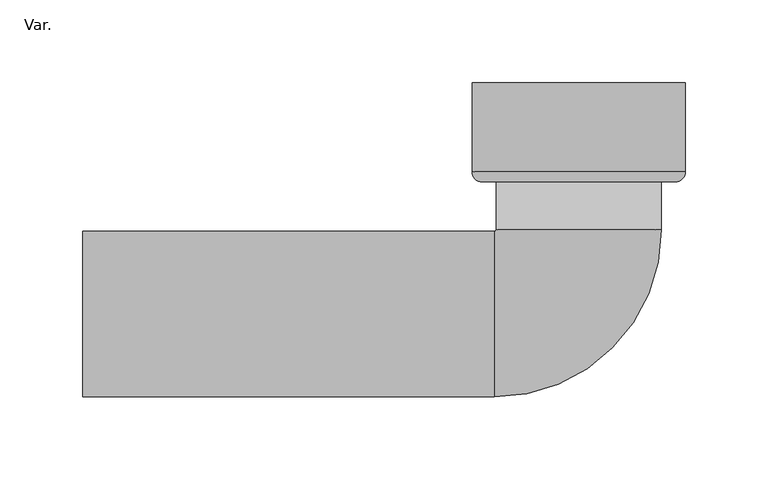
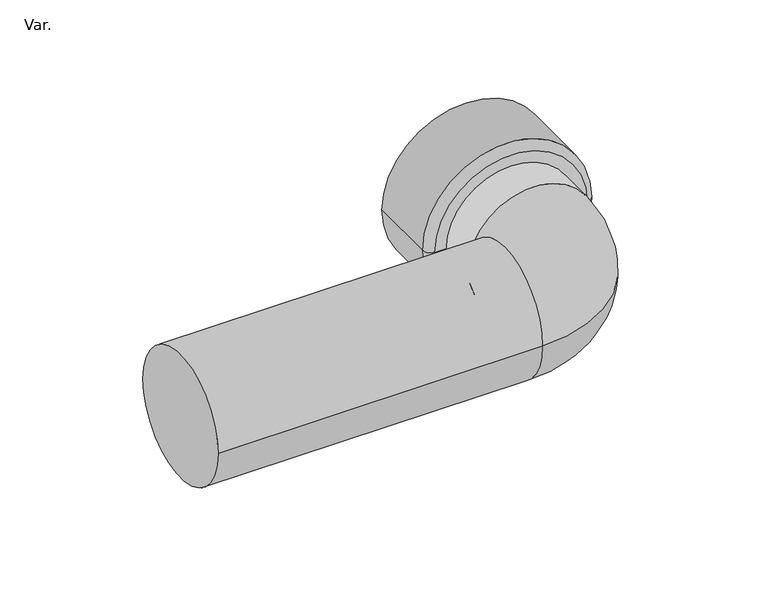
"""IFC4 building model written with IfcOpenShell, lengths in millimetres: pipe fitting geometry, NLRS_52_PIF_UN_HDPE floor lavatory bend_Akatherm : Var.."""

from ifc_helpers import new_model, si_unit, point, frame, origin, place, context, project, spatial, polyline, circle_curve, ellipse_curve, trimmed, source, transform, mapped, element, save
from ifc_brep_helpers import plane_surface, cylinder_surface, revolved_surface, advanced_brep


def var_6f643ae4(model_context):
    return source(origin(), model_context, "Body", "AdvancedBrep", [
        advanced_brep(
        [(0.0, 85.0, 0.0), (60.0, 85.0, 0.0), (-60.0, 85.0, 0.0), (-58.5, 80.0, 0.0), (58.5, 80.0, 0.0), (0.0, 80.0, 0.0), (-64.5, 86.0, 0.0), (64.5, 86.0, 0.0), (-64.5, 140.0, 0.0), (64.5, 140.0, 0.0), (-60.0, 140.0, 0.0), (60.0, 140.0, 0.0)],
        [
            (0, 1),
            (1, 2, circle_curve(frame((0.0, 85.0, 0.0), z_axis=(0.0, 1.0, 0.0), x_axis=(1.0, 0.0, 0.0)), 60.0)),
            (2, 0),
            (2, 1, circle_curve(frame((0.0, 85.0, 0.0), z_axis=(0.0, 1.0, 0.0), x_axis=(1.0, 0.0, 0.0)), 60.0)),
            (3, 4, circle_curve(frame((0.0, 80.0, 0.0), z_axis=(0.0, -1.0, 0.0), x_axis=(1.0, 0.0, 0.0)), 58.5)),
            (4, 5),
            (5, 3),
            (4, 3, circle_curve(frame((0.0, 80.0, 0.0), z_axis=(0.0, -1.0, 0.0), x_axis=(1.0, 0.0, 0.0)), 58.5)),
            (6, 7, circle_curve(frame((0.0, 86.0, 0.0), z_axis=(0.0, -1.0, 0.0), x_axis=(1.0, 0.0, 0.0)), 64.5)),
            (7, 4, circle_curve(frame((58.5, 86.0, 0.0), z_axis=(0.0, 0.0, -1.0), x_axis=(1.0, 0.0, 0.0)), 6.0)),
            (3, 6, circle_curve(frame((-58.5, 86.0, 0.0), z_axis=(0.0, 0.0, -1.0), x_axis=(-1.0, 0.0, 0.0)), 6.0)),
            (7, 6, circle_curve(frame((0.0, 86.0, 0.0), z_axis=(0.0, -1.0, 0.0), x_axis=(1.0, 0.0, 0.0)), 64.5)),
            (8, 9, circle_curve(frame((0.0, 140.0, 0.0), z_axis=(0.0, -1.0, 0.0), x_axis=(1.0, 0.0, 0.0)), 64.5)),
            (9, 7),
            (6, 8),
            (9, 8, circle_curve(frame((0.0, 140.0, 0.0), z_axis=(0.0, -1.0, 0.0), x_axis=(1.0, 0.0, 0.0)), 64.5)),
            (10, 11, circle_curve(frame((0.0, 140.0, 0.0), z_axis=(0.0, -1.0, 0.0), x_axis=(1.0, 0.0, 0.0)), 60.0)),
            (11, 9),
            (8, 10),
            (11, 10, circle_curve(frame((0.0, 140.0, 0.0), z_axis=(0.0, -1.0, 0.0), x_axis=(1.0, 0.0, 0.0)), 60.0)),
            (1, 11),
            (10, 2),
        ],
        [
            plane_surface(frame((0.0, 85.0, 0.0), z_axis=(0.0, 1.0, 0.0), x_axis=(1.0, 0.0, 0.0))),
            plane_surface(frame((0.0, 80.0, 0.0), z_axis=(0.0, -1.0, 0.0), x_axis=(1.0, 0.0, 0.0))),
            revolved_surface(trimmed(ellipse_curve(frame((58.5, 86.0, 0.0), z_axis=(0.0, 0.0, 1.0), x_axis=(1.0, 0.0, 0.0)), 6.0, 6.0), [point((58.5, 80.0, 0.0))], [point((64.5, 86.0, 0.0))], True, "CARTESIAN"), (0.0, 83.7, 0.0), (0.0, 1.0, 0.0)),
            cylinder_surface(frame((0.0, 83.7, 0.0), z_axis=(0.0, 1.0, 0.0), x_axis=(1.0, 0.0, 0.0)), 64.5),
            plane_surface(frame((0.0, 140.0, 0.0), z_axis=(0.0, 1.0, 0.0), x_axis=(1.0, 0.0, 0.0))),
            revolved_surface(polyline([(60.0, 140.0, 0.0), (60.0, 85.0, 0.0)]), (0.0, 83.7, 0.0), (0.0, 1.0, 0.0)),
        ],
        [
            (0, [[1, 2, 3]]),
            (0, [[-3, 4, -1]]),
            (1, [[5, 6, 7]]),
            (1, [[8, -7, -6]]),
            (2, [[9, 10, -5, 11]]),
            (2, [[12, -11, -8, -10]]),
            (3, [[13, 14, -9, 15]]),
            (3, [[16, -15, -12, -14]]),
            (4, [[17, 18, -13, 19]]),
            (4, [[20, -19, -16, -18]]),
            (5, [[-2, 21, -17, 22]]),
            (5, [[-4, -22, -20, -21]]),
        ],
    ),
        advanced_brep(
        [(-300.0, -50.0, 0.0), (-300.0, 50.0, 0.0), (-51.0, -50.0, 0.0), (-51.0, 50.0, 0.0), (-50.0, 51.0, 0.0), (50.0, 51.0, 0.0), (50.0, 80.0, 0.0), (-50.0, 80.0, 0.0)],
        [
            (0, 1, circle_curve(frame((-300.0, 0.0, 0.0), z_axis=(-1.0, 0.0, 0.0), x_axis=(0.0, 1.0, 0.0)), 50.0)),
            (1, 0, circle_curve(frame((-300.0, 0.0, 0.0), z_axis=(-1.0, 0.0, 0.0), x_axis=(0.0, 1.0, 0.0)), 50.0)),
            (0, 2),
            (2, 3, circle_curve(frame((-51.0, 0.0, 0.0), z_axis=(-1.0, 0.0, 0.0), x_axis=(0.0, 1.0, 0.0)), 50.0)),
            (3, 1),
            (3, 2, circle_curve(frame((-51.0, 0.0, 0.0), z_axis=(-1.0, 0.0, 0.0), x_axis=(0.0, 1.0, 0.0)), 50.0)),
            (4, 3, circle_curve(frame((-51.0, 51.0, 0.0), z_axis=(0.0, 0.0, -1.0), x_axis=(0.0, -1.0, 0.0)), 1.0)),
            (2, 5, circle_curve(frame((-51.0, 51.0, 0.0), z_axis=(0.0, 0.0, 1.0), x_axis=(0.0, -1.0, 0.0)), 101.0)),
            (5, 4, circle_curve(frame((0.0, 51.0, 0.0), z_axis=(0.0, -1.0, 0.0), x_axis=(-1.0, 0.0, 0.0)), 50.0)),
            (4, 5, circle_curve(frame((0.0, 51.0, 0.0), z_axis=(0.0, -1.0, 0.0), x_axis=(-1.0, 0.0, 0.0)), 50.0)),
            (6, 7, circle_curve(frame((0.0, 80.0, 0.0), z_axis=(0.0, 1.0, 0.0), x_axis=(-1.0, 0.0, 0.0)), 50.0)),
            (7, 6, circle_curve(frame((0.0, 80.0, 0.0), z_axis=(0.0, 1.0, 0.0), x_axis=(-1.0, 0.0, 0.0)), 50.0)),
            (5, 6),
            (7, 4),
        ],
        [
            plane_surface(frame((-300.0, 0.0, 0.0), z_axis=(-1.0, 0.0, 0.0), x_axis=(0.0, 0.0, 1.0))),
            cylinder_surface(frame((-300.0, 0.0, 0.0), z_axis=(-1.0, 0.0, 0.0), x_axis=(0.0, 1.0, 0.0)), 50.0),
            revolved_surface(trimmed(ellipse_curve(frame((-51.0, 0.0, 0.0), z_axis=(-1.0, 0.0, 0.0), x_axis=(0.0, 1.0, 0.0)), 50.0, 50.0), [point((-51.0, -50.0, 0.0))], [point((-51.0, 50.0, 0.0))], True, "CARTESIAN"), (-51.0, 51.0, 0.0), (0.0, 0.0, 1.0)),
            revolved_surface(trimmed(ellipse_curve(frame((-51.0, 0.0, 0.0), z_axis=(-1.0, 0.0, 0.0), x_axis=(0.0, 1.0, 0.0)), 50.0, 50.0), [point((-51.0, 50.0, 0.0))], [point((-51.0, -50.0, 0.0))], True, "CARTESIAN"), (-51.0, 51.0, 0.0), (0.0, 0.0, 1.0)),
            plane_surface(frame((0.0, 80.0, 0.0), z_axis=(0.0, 1.0, 0.0), x_axis=(0.0, 0.0, 1.0))),
            cylinder_surface(frame((0.0, 51.0, 0.0), z_axis=(0.0, -1.0, 0.0), x_axis=(-1.0, 0.0, 0.0)), 50.0),
        ],
        [
            (0, [[1, 2]]),
            (1, [[-1, 3, 4, 5]]),
            (1, [[-2, -5, 6, -3]]),
            (2, [[7, -4, 8, 9]]),
            (3, [[-8, -6, -7, 10]]),
            (4, [[11, 12]]),
            (5, [[-9, 13, -12, 14]]),
            (5, [[-10, -14, -11, -13]]),
        ],
    ),
    ])


if __name__ == "__main__":
    model = new_model("IFC4")
    model_context = context("Model", 3, world=origin())
    ifc_project = project(units=[si_unit("LENGTHUNIT", "METRE", prefix="MILLI")], contexts=[model_context])
    site = spatial("IfcSite", under=ifc_project)
    building = spatial("IfcBuilding", under=site)
    placement = place(None, origin())
    var_shape = var_6f643ae4(model_context)
    element("IfcPipeFitting", 1, ObjectType="NLRS_52_PIF_UN_HDPE floor lavatory bend_Akatherm : Var.", at=placement, inside=building, context=model_context, shape_type="MappedRepresentation", body=[
        mapped(var_shape, transform((0.0, 0.0, 0.0), x_axis=(1.0, 0.0, 0.0), y_axis=(0.0, 1.0, 0.0), z_axis=(0.0, 0.0, 1.0))),
    ])
    save(model, "model.ifc")
